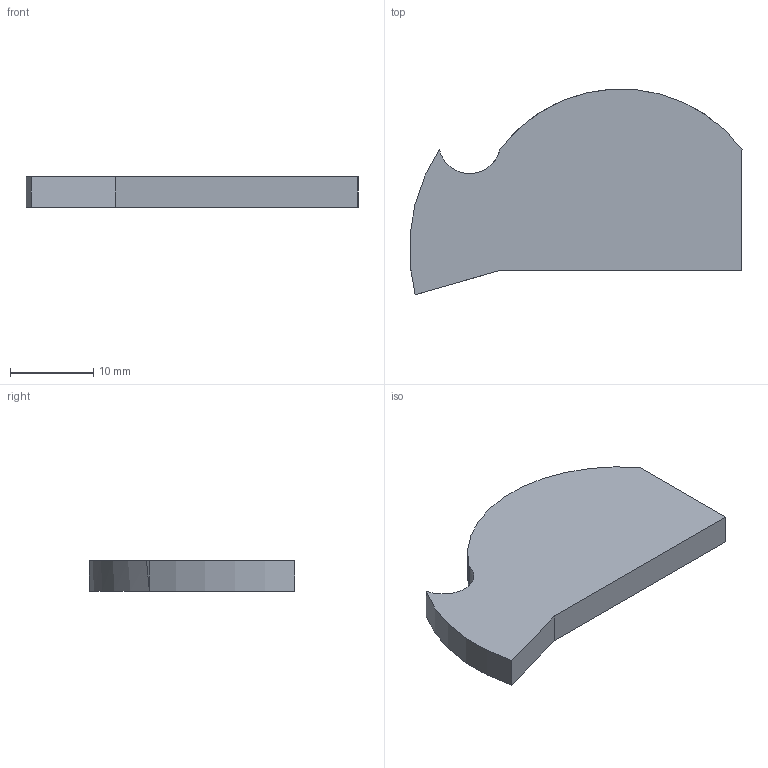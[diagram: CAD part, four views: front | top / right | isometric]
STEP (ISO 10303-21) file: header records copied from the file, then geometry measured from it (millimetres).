
FILE_DESCRIPTION(('Open CASCADE Model'),'2;1');
FILE_NAME('Open CASCADE Shape Model','2026-10-26T18:30:36',('Author'),( 'Open CASCADE'),'Open CASCADE STEP processor 7.9','Open CASCADE 7.9' ,'Unknown');
FILE_SCHEMA(('AUTOMOTIVE_DESIGN { 1 0 10303 214 1 1 1 1 }'));
Length unit declared in the file: millimetre
Products named in the file (1): Open CASCADE STEP translator 7.9 1
Bounding box: 39.93 x 24.7 x 3.64 mm (x, y, z)
Volume: 2607.3 mm3; surface area: 1856.1 mm2
Topology: 1 solids, 1 shells, 9 faces, 21 edges, 14 vertices
Faces by surface type: plane 6, cylinder 3
Entity records: 605 total; most frequent: CARTESIAN_POINT 173, DIRECTION 78, LINE 43, VECTOR 43, ORIENTED_EDGE 42, PCURVE 42, DEFINITIONAL_REPRESENTATION 42, EDGE_CURVE 21
